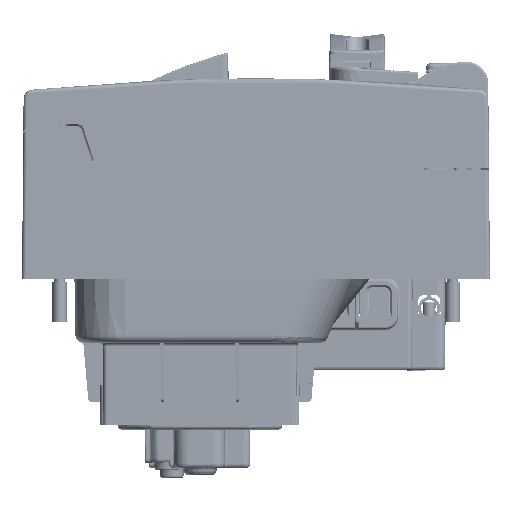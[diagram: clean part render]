
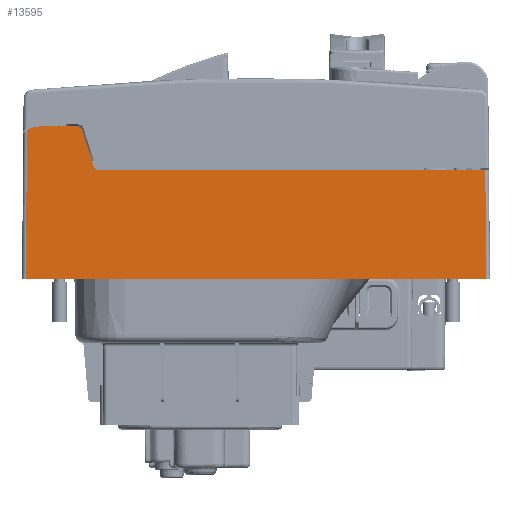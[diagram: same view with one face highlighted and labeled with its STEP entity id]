
A CAD part, left-side view. The second image highlights one B-rep face of the part: STEP entity #13595.
In plain terms, the highlighted planar face has unit normal (-1, 0, 0.009).
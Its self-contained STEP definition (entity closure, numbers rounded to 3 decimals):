
#2407=FACE_OUTER_BOUND('',#33041,.T.);
#13595=ADVANCED_FACE('',(#2407),#21933,.F.);
#21933=PLANE('',#151870);
#25742=ELLIPSE('',#151326,7.2,7.2);
#25786=ELLIPSE('',#151519,1.3,1.3);
#25839=ELLIPSE('',#151868,1.,1.);
#33041=EDGE_LOOP('',(#47410,#47411,#47412,#47413,#47414,#47415,#47416,#47417,
#47418));
#47410=ORIENTED_EDGE('',*,*,#105157,.F.);
#47411=ORIENTED_EDGE('',*,*,#105155,.T.);
#47412=ORIENTED_EDGE('',*,*,#105130,.F.);
#47413=ORIENTED_EDGE('',*,*,#104541,.T.);
#47414=ORIENTED_EDGE('',*,*,#104203,.T.);
#47415=ORIENTED_EDGE('',*,*,#104210,.T.);
#47416=ORIENTED_EDGE('',*,*,#104564,.F.);
#47417=ORIENTED_EDGE('',*,*,#104647,.F.);
#47418=ORIENTED_EDGE('',*,*,#105158,.T.);
#90084=VERTEX_POINT('',#204660);
#90085=VERTEX_POINT('',#204662);
#90090=VERTEX_POINT('',#204689);
#90360=VERTEX_POINT('',#205892);
#90372=VERTEX_POINT('',#205944);
#90427=VERTEX_POINT('',#206106);
#90721=VERTEX_POINT('',#207499);
#90734=VERTEX_POINT('',#207650);
#90735=VERTEX_POINT('',#207654);
#104203=EDGE_CURVE('',#90085,#90084,#126278,.T.);
#104210=EDGE_CURVE('',#90084,#90090,#25742,.T.);
#104541=EDGE_CURVE('',#90360,#90085,#25786,.T.);
#104564=EDGE_CURVE('',#90372,#90090,#126507,.T.);
#104647=EDGE_CURVE('',#90427,#90372,#126573,.T.);
#105130=EDGE_CURVE('',#90360,#90721,#126953,.T.);
#105155=EDGE_CURVE('',#90734,#90721,#25839,.T.);
#105157=EDGE_CURVE('',#90734,#90735,#126967,.T.);
#105158=EDGE_CURVE('',#90427,#90735,#126968,.T.);
#126278=LINE('',#204661,#138770);
#126507=LINE('',#205943,#138999);
#126573=LINE('',#206107,#139065);
#126953=LINE('',#207498,#139445);
#126967=LINE('',#207653,#139459);
#126968=LINE('',#207655,#139460);
#138770=VECTOR('',#165035,1.);
#138999=VECTOR('',#165702,1.);
#139065=VECTOR('',#165852,1.);
#139445=VECTOR('',#166778,1.);
#139459=VECTOR('',#166820,1.);
#139460=VECTOR('',#166821,1.);
#151326=AXIS2_PLACEMENT_3D('',#204690,#165045,#165046);
#151519=AXIS2_PLACEMENT_3D('',#205891,#165647,#165648);
#151868=AXIS2_PLACEMENT_3D('',#207649,#166815,#166816);
#151870=AXIS2_PLACEMENT_3D('',#207656,#166822,#166823);
#165035=DIRECTION('',(0.,1.,0.));
#165045=DIRECTION('',(-1.,0.,0.009));
#165046=DIRECTION('',(-0.009,0.,-1.));
#165647=DIRECTION('',(-1.,0.,0.009));
#165648=DIRECTION('',(0.009,0.,1.));
#165702=DIRECTION('',(0.009,-0.009,1.));
#165852=DIRECTION('',(0.,1.,0.));
#166778=DIRECTION('',(-0.008,-0.309,-0.951));
#166815=DIRECTION('',(1.,0.,-0.009));
#166816=DIRECTION('',(0.009,0.,1.));
#166820=DIRECTION('',(0.,-1.,0.));
#166821=DIRECTION('',(0.009,0.009,1.));
#166822=DIRECTION('',(1.,0.,-0.009));
#166823=DIRECTION('',(-0.009,0.,-1.));
#204660=CARTESIAN_POINT('',(-36.913,80.649,40.7));
#204661=CARTESIAN_POINT('',(-36.913,80.65,40.7));
#204662=CARTESIAN_POINT('',(-36.913,70.895,40.7));
#204689=CARTESIAN_POINT('',(-36.921,84.303,39.704));
#204690=CARTESIAN_POINT('',(-36.976,80.649,33.5));
#205891=CARTESIAN_POINT('',(-36.924,70.895,39.4));
#205892=CARTESIAN_POINT('',(-36.921,69.659,39.802));
#205943=CARTESIAN_POINT('',(-37.268,84.649,-0.005));
#205944=CARTESIAN_POINT('',(-37.268,84.649,0.));
#206106=CARTESIAN_POINT('',(-37.268,-38.351,0.));
#206107=CARTESIAN_POINT('',(-37.268,-38.352,0.));
#207498=CARTESIAN_POINT('',(-37.283,56.171,-1.709));
#207499=CARTESIAN_POINT('',(-37.009,66.374,29.691));
#207649=CARTESIAN_POINT('',(-37.006,65.423,30.));
#207650=CARTESIAN_POINT('',(-37.015,65.423,29.));
#207653=CARTESIAN_POINT('',(-37.015,-38.352,29.));
#207654=CARTESIAN_POINT('',(-37.015,-38.098,29.));
#207655=CARTESIAN_POINT('',(-37.015,-38.098,29.001));
#207656=CARTESIAN_POINT('',(-37.015,-38.352,29.001));
